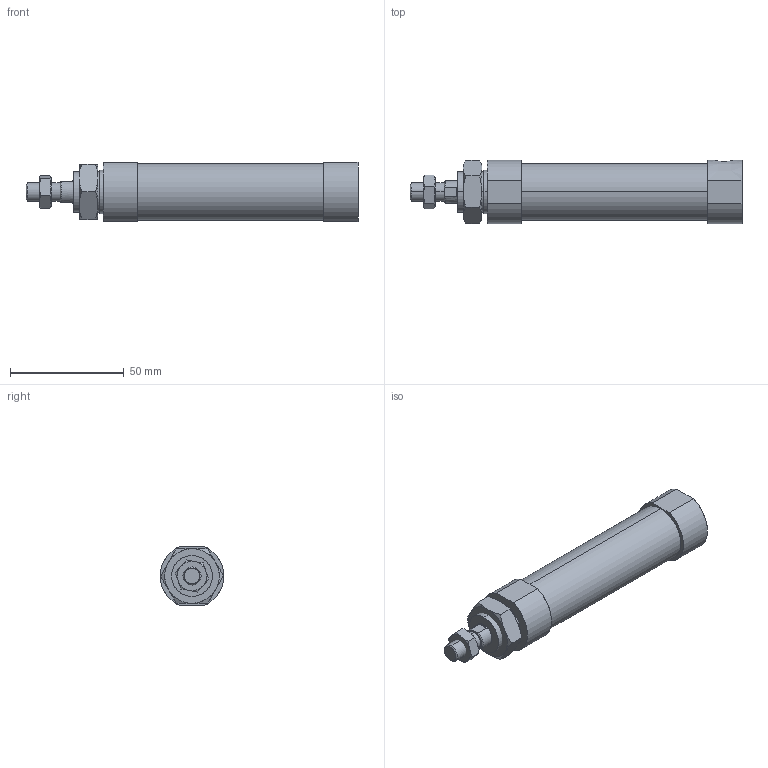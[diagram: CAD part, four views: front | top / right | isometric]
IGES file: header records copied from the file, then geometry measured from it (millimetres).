
Start section: SolidWorks IGES file using analytic representation for surfaces
Global section: file name: C:\Users\Toshiba\Desktop\JGND1-20-15(25)-N.IGS; native system: SolidWorks 2014; preprocessor: SolidWorks 2014; author: Toshiba; date: 160804.101303; units: millimetre
Bounding box: 146 x 28 x 26 mm (x, y, z)
Surface area: 14286.3 mm2 (no closed solid volume)
Topology: 0 solids, 0 shells, 81 faces, 1362 edges, 1362 vertices
Faces by surface type: bspline 57, revolution 24
